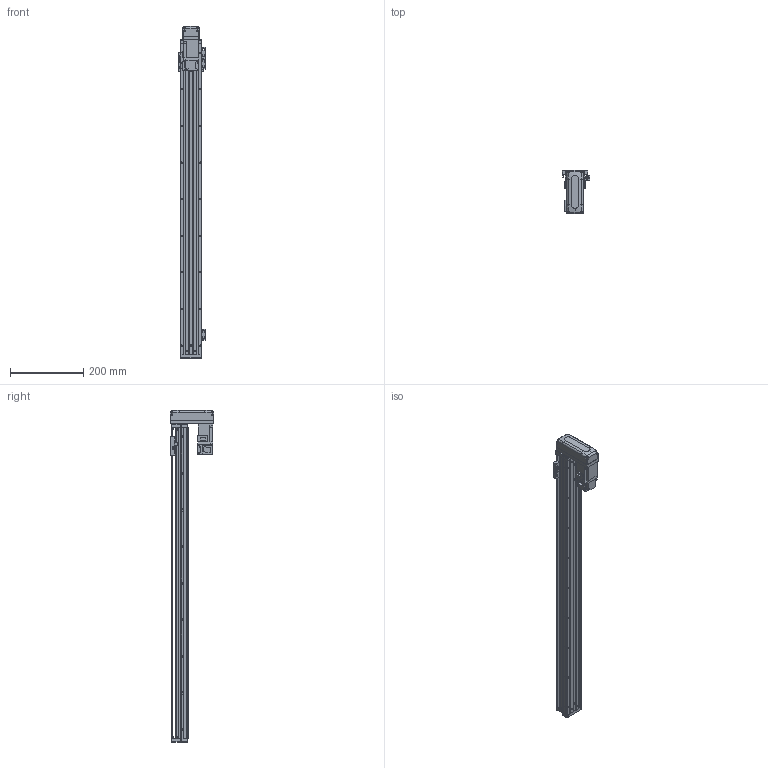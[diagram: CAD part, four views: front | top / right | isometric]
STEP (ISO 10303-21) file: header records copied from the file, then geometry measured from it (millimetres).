
FILE_DESCRIPTION (( 'STEP AP203' ), '1' );
FILE_NAME ('KTHA50-750-BM-M10-C4L.step', '2022-03-19T07:12:43', ( '微软用户' ), ( '微软中国' ), 'SwSTEP 2.0', 'SolidWorks 2020', '' );
FILE_SCHEMA (( 'CONFIG_CONTROL_DESIGN' ));
Length unit declared in the file: millimetre
Products named in the file (18): KTHA50-005; CTHA60-016; KTHA50-750-BM-M10-C4L; GB¨uT 70.2-M3¡Á6_M3¡Á6; CTHA60-021; EE_SX911P_R; GBT 70.3-M3℅6; GBT77-2000 M3×3; HG-KR13（三菱）; KTHA50-001_850; GBT 70.1-M3℅6; CTHA50-015-2_CTHA60-015-2; KTHA50-002; CTHA60-017; CTHA60-033; KTHA50-004; GBT 70.1-M4×12; GBT 70.1-M3×15
Assembly tree (53 placements, depth 2):
  KTHA50-750-BM-M10-C4L
    KTHA50-001_850
    KTHA50-002
    KTHA50-004
    KTHA50-005
    GB¨uT 70.2-M3¡Á6_M3¡Á6  x6
    EE_SX911P_R  x3
    GBT77-2000 M3×3  x6
    GBT 70.1-M3℅6  x6
    CTHA60-017  x3
    GBT 70.1-M4×12  x10
    CTHA60-016  x2
    CTHA60-021  x2
    GBT 70.3-M3℅6  x4
    HG-KR13（三菱）
    CTHA50-015-2_CTHA60-015-2
    CTHA60-033
    GBT 70.1-M3×15  x4
Bounding box: 75.22 x 120 x 907 mm (x, y, z)
Volume: 1737892.7 mm3; surface area: 424651 mm2
Topology: 56 solids, 56 shells, 2323 faces, 5519 edges, 3388 vertices
Faces by surface type: plane 1300, cylinder 568, cone 313, torus 100, bspline 26, sphere 16
Entity records: 40173 total; most frequent: CARTESIAN_POINT 7570, DIRECTION 6295, ORIENTED_EDGE 6050, EDGE_CURVE 3025, AXIS2_PLACEMENT_3D 2129, VECTOR 2037, LINE 2037, VERTEX_POINT 1902
